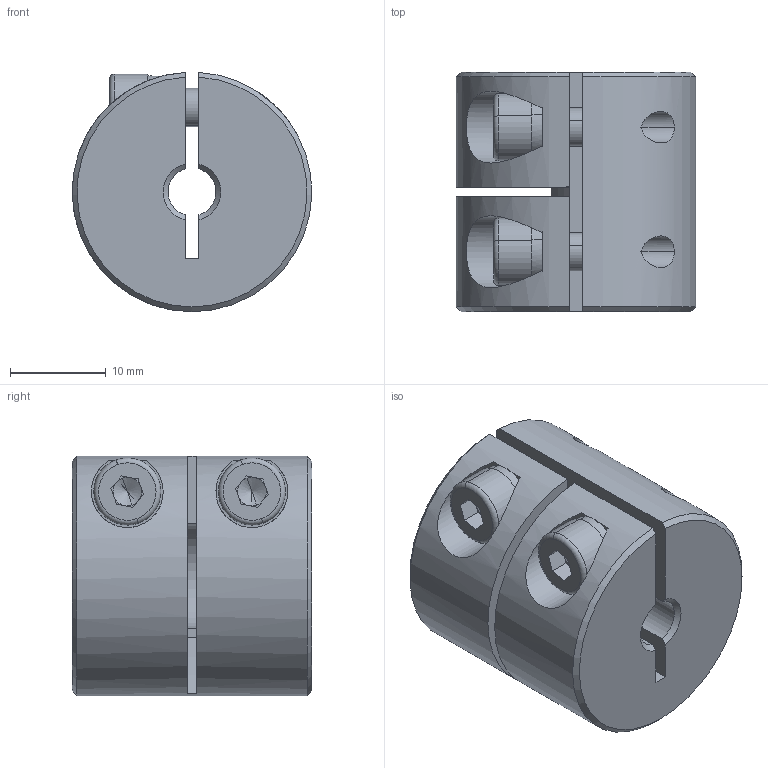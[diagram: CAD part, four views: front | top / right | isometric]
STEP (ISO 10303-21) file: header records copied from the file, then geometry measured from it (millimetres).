
FILE_DESCRIPTION (( 'STEP AP203' ), '1' );
FILE_NAME ('LL-B-D25L25-5-11.STEP', '2021-11-05T06:28:22', ( '' ), ( '' ), 'SwSTEP 2.0', 'SolidWorks 2018', '' );
FILE_SCHEMA (( 'CONFIG_CONTROL_DESIGN' ));
Length unit declared in the file: millimetre
Products named in the file (1): LL-B-D25L25-5-11
Bounding box: 24.99 x 25 x 24.98 mm (x, y, z)
Volume: 10018.4 mm3; surface area: 4961.2 mm2
Topology: 1 solids, 1 shells, 104 faces, 270 edges, 170 vertices
Faces by surface type: plane 52, cylinder 37, cone 11, torus 4
Entity records: 3471 total; most frequent: CARTESIAN_POINT 815, DIRECTION 560, ORIENTED_EDGE 532, EDGE_CURVE 266, AXIS2_PLACEMENT_3D 215, VERTEX_POINT 170, VECTOR 130, LINE 130
